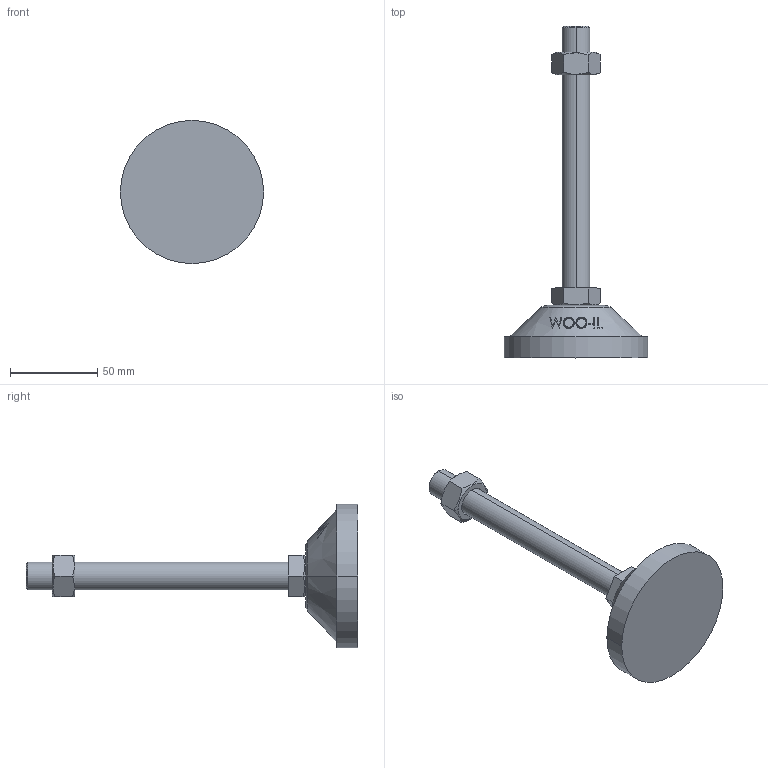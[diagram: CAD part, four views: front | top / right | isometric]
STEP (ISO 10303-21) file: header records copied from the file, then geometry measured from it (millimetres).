
FILE_DESCRIPTION (( 'STEP AP214' ), '1' );
FILE_NAME ('RL82-M16-150.step', '2021-01-06T08:17:45', ( '' ), ( '' ), 'SwSTEP 2.0', 'SolidWorks 2019', '' );
FILE_SCHEMA (( 'AUTOMOTIVE_DESIGN' ));
Length unit declared in the file: millimetre
Products named in the file (1): RL82-M16-150
Bounding box: 82 x 190 x 82 mm (x, y, z)
Volume: 149750.5 mm3; surface area: 26413 mm2
Topology: 3 solids, 3 shells, 93 faces, 217 edges, 140 vertices
Faces by surface type: plane 47, cone 22, bspline 16, cylinder 6, torus 2
Entity records: 4223 total; most frequent: CARTESIAN_POINT 2191, ORIENTED_EDGE 434, DIRECTION 349, EDGE_CURVE 217, VERTEX_POINT 140, AXIS2_PLACEMENT_3D 134, EDGE_LOOP 105, ADVANCED_FACE 93
